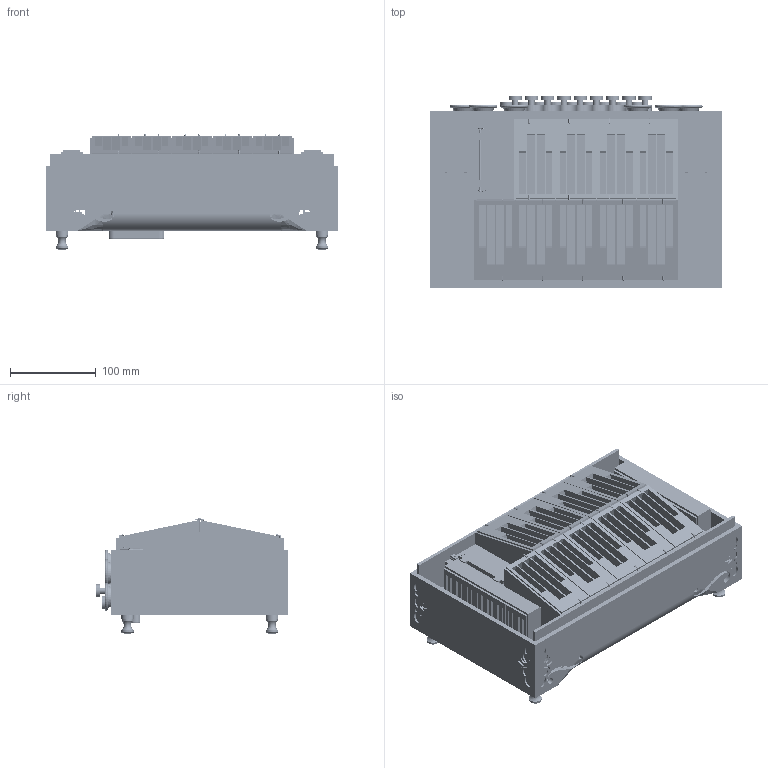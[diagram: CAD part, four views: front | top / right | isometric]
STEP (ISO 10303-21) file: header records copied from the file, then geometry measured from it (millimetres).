
FILE_DESCRIPTION(('Open CASCADE Model'),'2;1');
FILE_NAME('Open CASCADE Shape Model','2026-11-26T17:26:04',('Author'),( 'Open CASCADE'),'Open CASCADE STEP processor 7.9','Open CASCADE 7.9' ,'Unknown');
FILE_SCHEMA(('AUTOMOTIVE_DESIGN { 1 0 10303 214 1 1 1 1 }'));
Length unit declared in the file: millimetre
Products named in the file (477): Bassteil_340_schmal_schraeg; Front; Rueckteil; Seitenteil_links; Seitenteil_rechts; Bassboden; Horn_1; Horn_2; Horn_3; Horn_4; Horn_5; Horn_6; Frontblende; Knopf_R1_100; Knopfzylinder_R1_100; Filzeinlage_R1_100; Knopf_R1_119; Knopfzylinder_R1_119; Filzeinlage_R1_119; Knopf_R1_138; Knopfzylinder_R1_138; Filzeinlage_R1_138; Knopf_R1_157; Knopfzylinder_R1_157; Filzeinlage_R1_157; Knopf_R1_176; Knopfzylinder_R1_176; Filzeinlage_R1_176; Knopf_R1_195; Knopfzylinder_R1_195; Filzeinlage_R1_195; Knopf_R1_214; Knopfzylinder_R1_214; Filzeinlage_R1_214; Knopf_R1_233; Knopfzylinder_R1_233; Filzeinlage_R1_233; Knopf_R1_252; Knopfzylinder_R1_252; Filzeinlage_R1_252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
Assembly tree (476 placements, depth 2):
  Bassteil_340_schmal_schraeg
    Front
    Rueckteil
    Seitenteil_links
    Seitenteil_rechts
    Bassboden
    Horn_1
    Horn_2
    Horn_3
    Horn_4
    Horn_5
    Horn_6
    Frontblende
    Knopf_R1_100
    Knopfzylinder_R1_100
    Filzeinlage_R1_100
    Knopf_R1_119
    Knopfzylinder_R1_119
    Filzeinlage_R1_119
    Knopf_R1_138
    Knopfzylinder_R1_138
    Filzeinlage_R1_138
    Knopf_R1_157
    Knopfzylinder_R1_157
    Filzeinlage_R1_157
    Knopf_R1_176
    Knopfzylinder_R1_176
    Filzeinlage_R1_176
    Knopf_R1_195
    Knopfzylinder_R1_195
    Filzeinlage_R1_195
    Knopf_R1_214
    Knopfzylinder_R1_214
    Filzeinlage_R1_214
    Knopf_R1_233
    Knopfzylinder_R1_233
    Filzeinlage_R1_233
    Knopf_R1_252
    Knopfzylinder_R1_252
    Filzeinlage_R1_252
    Knopf_R2_90
    Knopfzylinder_R2_90
    Filzeinlage_R2_90
    Knopf_R2_109
    Knopfzylinder_R2_109
    Filzeinlage_R2_109
    Knopf_R2_128
    Knopfzylinder_R2_128
    Filzeinlage_R2_128
    Knopf_R2_147
    Knopfzylinder_R2_147
    Filzeinlage_R2_147
    Knopf_R2_166
    Knopfzylinder_R2_166
    Filzeinlage_R2_166
    Knopf_R2_185
    Knopfzylinder_R2_185
    Filzeinlage_R2_185
    Knopf_R2_204
    Knopfzylinder_R2_204
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Bounding box: 342 x 225 x 135.1 mm (x, y, z)
Volume: 2031949.8 mm3; surface area: 1483232.8 mm2
Topology: 480 solids, 480 shells, 16877 faces, 47206 edges, 31075 vertices
Faces by surface type: plane 14681, cylinder 1452, cone 378, sphere 227, revolution 110, bspline 27, torus 2
Full cylindrical faces by diameter (mm): 0.5 x110, 1.1 x31, 1.4 x61, 1.45 x2, 1.5 x118, 1.6 x64, 1.8 x36, 2.4 x210, 2.5 x76, 3 x12, 3.5 x6, 3.6 x2, 4 x126, 6 x4, 7.5 x36, 8 x8, 9.5 x8, 10 x35, 11 x18, 12 x28, 12.5 x4, 13 x4, 13.5 x8, 14 x4, 15 x8, 15.5 x18, 18 x20, 24 x26, 25 x8
Entity records: 1242093 total; most frequent: CARTESIAN_POINT 289064, DIRECTION 174027, LINE 126529, VECTOR 126529, ORIENTED_EDGE 93872, PCURVE 93872, DEFINITIONAL_REPRESENTATION 93872, EDGE_CURVE 46936
